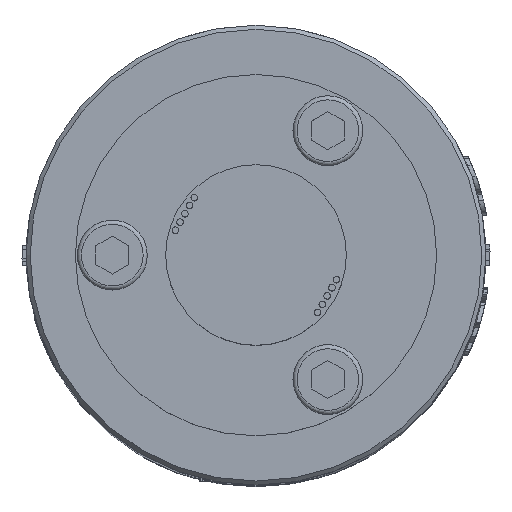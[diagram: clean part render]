
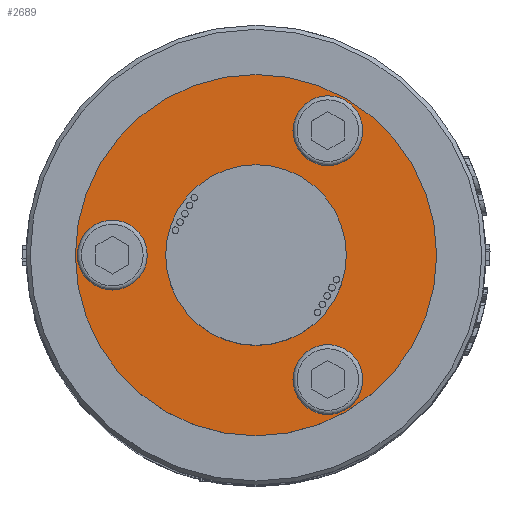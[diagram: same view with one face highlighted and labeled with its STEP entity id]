
A CAD part, top view. The second image highlights one B-rep face of the part: STEP entity #2689.
In plain terms, the highlighted planar face has unit normal (0, 0, 1).
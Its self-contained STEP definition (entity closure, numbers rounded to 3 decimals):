
#620=FACE_BOUND('',#5566,.T.);
#621=FACE_BOUND('',#5567,.T.);
#622=FACE_BOUND('',#5568,.T.);
#623=FACE_BOUND('',#5569,.T.);
#624=FACE_BOUND('',#5570,.T.);
#885=CIRCLE('',#21147,4.25);
#887=CIRCLE('',#21151,4.25);
#890=CIRCLE('',#21164,4.25);
#914=CIRCLE('',#21221,11.);
#915=CIRCLE('',#21223,22.);
#2689=ADVANCED_FACE('',(#620,#621,#622,#623,#624),#3192,.T.);
#3192=PLANE('',#21224);
#5566=EDGE_LOOP('',(#12937));
#5567=EDGE_LOOP('',(#12938));
#5568=EDGE_LOOP('',(#12939));
#5569=EDGE_LOOP('',(#12940));
#5570=EDGE_LOOP('',(#12941));
#12937=ORIENTED_EDGE('',*,*,#17756,.F.);
#12938=ORIENTED_EDGE('',*,*,#17758,.F.);
#12939=ORIENTED_EDGE('',*,*,#17779,.F.);
#12940=ORIENTED_EDGE('',*,*,#17822,.T.);
#12941=ORIENTED_EDGE('',*,*,#17821,.F.);
#14902=VERTEX_POINT('',#41525);
#14904=VERTEX_POINT('',#41531);
#14919=VERTEX_POINT('',#41577);
#14955=VERTEX_POINT('',#41688);
#14956=VERTEX_POINT('',#41691);
#17756=EDGE_CURVE('',#14902,#14902,#885,.T.);
#17758=EDGE_CURVE('',#14904,#14904,#887,.T.);
#17779=EDGE_CURVE('',#14919,#14919,#890,.T.);
#17821=EDGE_CURVE('',#14955,#14955,#914,.T.);
#17822=EDGE_CURVE('',#14956,#14956,#915,.T.);
#21147=AXIS2_PLACEMENT_3D('',#41524,#24082,#24083);
#21151=AXIS2_PLACEMENT_3D('',#41530,#24090,#24091);
#21164=AXIS2_PLACEMENT_3D('',#41576,#24134,#24135);
#21221=AXIS2_PLACEMENT_3D('',#41687,#24266,#24267);
#21223=AXIS2_PLACEMENT_3D('',#41690,#24270,#24271);
#21224=AXIS2_PLACEMENT_3D('',#41692,#24272,#24273);
#24082=DIRECTION('',(0.,0.,1.));
#24083=DIRECTION('',(-0.866,0.5,0.));
#24090=DIRECTION('',(0.,0.,1.));
#24091=DIRECTION('',(-0.866,0.5,0.));
#24134=DIRECTION('',(0.,0.,1.));
#24135=DIRECTION('',(-0.866,0.5,0.));
#24266=DIRECTION('',(0.,0.,1.));
#24267=DIRECTION('',(0.866,-0.5,0.));
#24270=DIRECTION('',(0.,0.,1.));
#24271=DIRECTION('',(0.866,-0.5,0.));
#24272=DIRECTION('',(0.,0.,1.));
#24273=DIRECTION('',(-0.866,0.5,0.));
#41524=CARTESIAN_POINT('',(8.75,-15.155,136.5));
#41525=CARTESIAN_POINT('',(5.069,-13.03,136.5));
#41530=CARTESIAN_POINT('',(8.75,15.155,136.5));
#41531=CARTESIAN_POINT('',(5.069,17.28,136.5));
#41576=CARTESIAN_POINT('',(-17.5,0.,136.5));
#41577=CARTESIAN_POINT('',(-21.181,2.125,136.5));
#41687=CARTESIAN_POINT('',(0.,0.,
136.5));
#41688=CARTESIAN_POINT('',(9.526,-5.5,136.5));
#41690=CARTESIAN_POINT('',(0.,0.,
136.5));
#41691=CARTESIAN_POINT('',(19.053,-11.,136.5));
#41692=CARTESIAN_POINT('',(0.,0.,
136.5));
